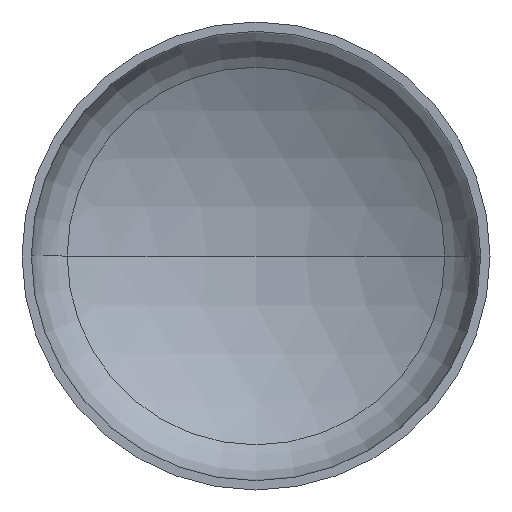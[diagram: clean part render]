
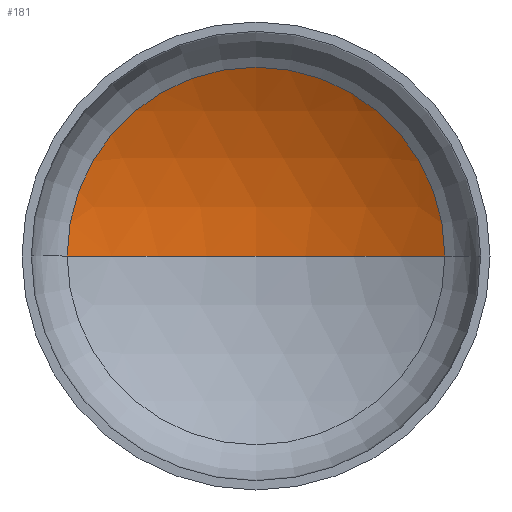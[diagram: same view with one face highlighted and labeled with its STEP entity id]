
A CAD part, front view. The second image highlights one B-rep face of the part: STEP entity #181.
In plain terms, the highlighted spherical face has radius 3600 mm.
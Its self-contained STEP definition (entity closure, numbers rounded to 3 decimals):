
#3 = VERTEX_POINT ( 'NONE', #389 ) ;
#5 = CARTESIAN_POINT ( 'NONE',  ( 0., -2408.545, 0. ) ) ;
#10 = AXIS2_PLACEMENT_3D ( 'NONE', #203, #246, #369 ) ;
#11 = AXIS2_PLACEMENT_3D ( 'NONE', #263, #205, #93 ) ;
#16 = AXIS2_PLACEMENT_3D ( 'NONE', #126, #167, #163 ) ;
#28 = EDGE_LOOP ( 'NONE', ( #53, #87, #40 ) ) ;
#40 = ORIENTED_EDGE ( 'NONE', *, *, #345, .T. ) ;
#41 = VERTEX_POINT ( 'NONE', #280 ) ;
#50 = AXIS2_PLACEMENT_3D ( 'NONE', #5, #189, #162 ) ;
#53 = ORIENTED_EDGE ( 'NONE', *, *, #330, .F. ) ;
#87 = ORIENTED_EDGE ( 'NONE', *, *, #351, .T. ) ;
#93 = DIRECTION ( 'NONE',  ( 1., 0., 0. ) ) ;
#126 = CARTESIAN_POINT ( 'NONE',  ( 0., -2408.545, 0. ) ) ;
#162 = DIRECTION ( 'NONE',  ( -1., 0., 0. ) ) ;
#163 = DIRECTION ( 'NONE',  ( 1., 0., 0. ) ) ;
#164 = CIRCLE ( 'NONE', #16, 3600. ) ;
#167 = DIRECTION ( 'NONE',  ( 0., 0., 1. ) ) ;
#181 = ADVANCED_FACE ( 'NONE', ( #244 ), #306, .F. ) ;
#189 = DIRECTION ( 'NONE',  ( 0., 0., -1. ) ) ;
#203 = CARTESIAN_POINT ( 'NONE',  ( 0., -2408.545, 0. ) ) ;
#205 = DIRECTION ( 'NONE',  ( 0., -1., 0. ) ) ;
#221 = CIRCLE ( 'NONE', #11, 1815.491 ) ;
#244 = FACE_OUTER_BOUND ( 'NONE', #28, .T. ) ;
#246 = DIRECTION ( 'NONE',  ( 0., 0., -1. ) ) ;
#250 = CARTESIAN_POINT ( 'NONE',  ( -1815.491, 700.151, 0. ) ) ;
#263 = CARTESIAN_POINT ( 'NONE',  ( 0., 700.151, 0. ) ) ;
#275 = CIRCLE ( 'NONE', #10, 3600. ) ;
#280 = CARTESIAN_POINT ( 'NONE',  ( 1815.491, 700.151, 0. ) ) ;
#306 = SPHERICAL_SURFACE ( 'NONE', #50, 3600. ) ;
#330 = EDGE_CURVE ( 'NONE', #3, #405, #164, .T. ) ;
#345 = EDGE_CURVE ( 'NONE', #41, #405, #221, .T. ) ;
#351 = EDGE_CURVE ( 'NONE', #3, #41, #275, .T. ) ;
#369 = DIRECTION ( 'NONE',  ( -1., 0., 0. ) ) ;
#389 = CARTESIAN_POINT ( 'NONE',  ( 0., 1191.455, 0. ) ) ;
#405 = VERTEX_POINT ( 'NONE', #250 ) ;
